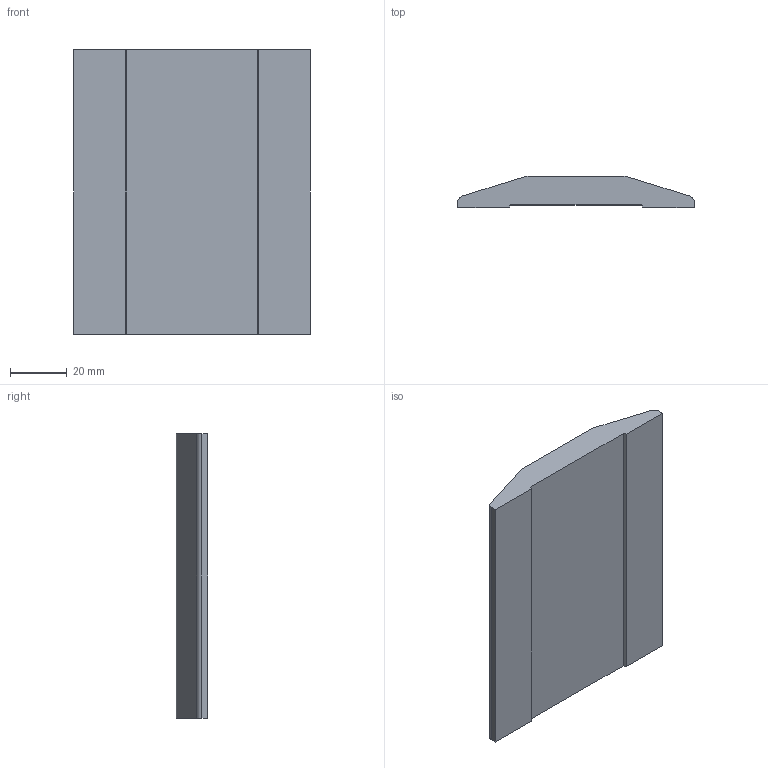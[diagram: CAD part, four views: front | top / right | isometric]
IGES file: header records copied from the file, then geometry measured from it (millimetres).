
Global section: file name: No Iges File Name specified; native system: Autodesk Inventor 2012; preprocessor: AutoDesk Inventor Iges Exporter R2012; author: anna.b; date: 20131108.145927; units: millimetre
Bounding box: 83 x 11 x 100 mm (x, y, z)
Volume: 68487.9 mm3; surface area: 18934.8 mm2
Topology: 1 solids, 1 shells, 16 faces, 42 edges, 28 vertices
Faces by surface type: plane 12, cylinder 4
